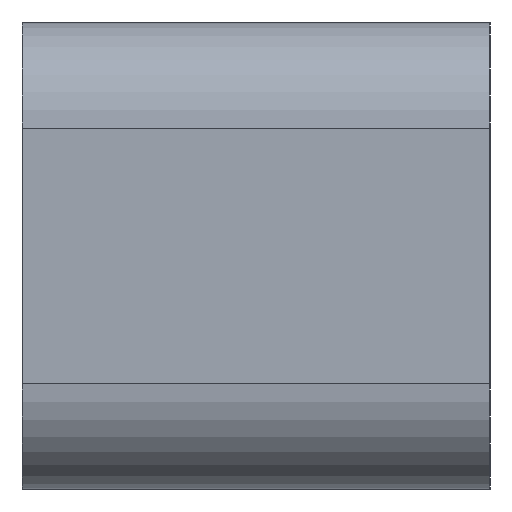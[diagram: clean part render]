
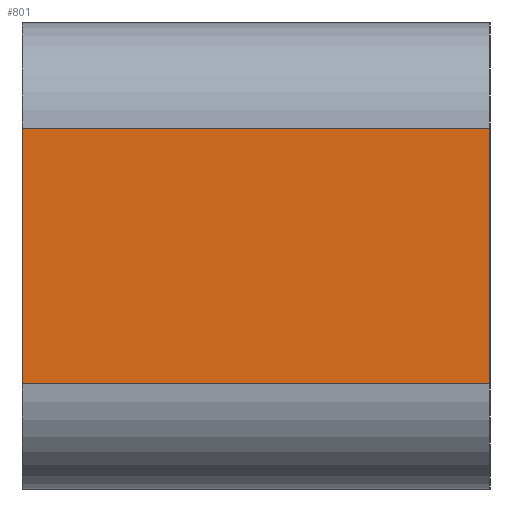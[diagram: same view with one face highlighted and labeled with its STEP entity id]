
A CAD part, left-side view. The second image highlights one B-rep face of the part: STEP entity #801.
In plain terms, the highlighted planar face has unit normal (-1, 0, 0).
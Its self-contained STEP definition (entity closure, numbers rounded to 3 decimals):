
#10 = CARTESIAN_POINT ( 'NONE',  ( -24.25, -7., 14. ) ) ;
#35 = LINE ( 'NONE', #239, #564 ) ;
#38 = CARTESIAN_POINT ( 'NONE',  ( -24.25, -7., 10.825 ) ) ;
#41 = CARTESIAN_POINT ( 'NONE',  ( -24.25, -7., 10.825 ) ) ;
#80 = CARTESIAN_POINT ( 'NONE',  ( -24.25, -7., 3.175 ) ) ;
#97 = EDGE_CURVE ( 'NONE', #417, #707, #539, .T. ) ;
#104 = EDGE_CURVE ( 'NONE', #321, #707, #888, .T. ) ;
#122 = CARTESIAN_POINT ( 'NONE',  ( -24.25, 7., 3.175 ) ) ;
#148 = EDGE_CURVE ( 'NONE', #662, #321, #35, .T. ) ;
#173 = FACE_OUTER_BOUND ( 'NONE', #340, .T. ) ;
#184 = VECTOR ( 'NONE', #497, 1000. ) ;
#193 = DIRECTION ( 'NONE',  ( 0., 0., -1. ) ) ;
#239 = CARTESIAN_POINT ( 'NONE',  ( -24.25, 7., 14. ) ) ;
#247 = VECTOR ( 'NONE', #803, 1000. ) ;
#321 = VERTEX_POINT ( 'NONE', #122 ) ;
#340 = EDGE_LOOP ( 'NONE', ( #481, #875, #495, #446 ) ) ;
#387 = VECTOR ( 'NONE', #193, 1000. ) ;
#417 = VERTEX_POINT ( 'NONE', #38 ) ;
#446 = ORIENTED_EDGE ( 'NONE', *, *, #807, .T. ) ;
#480 = CARTESIAN_POINT ( 'NONE',  ( -24.25, -7., 3.175 ) ) ;
#481 = ORIENTED_EDGE ( 'NONE', *, *, #148, .T. ) ;
#495 = ORIENTED_EDGE ( 'NONE', *, *, #97, .F. ) ;
#497 = DIRECTION ( 'NONE',  ( 0., -1., 0. ) ) ;
#530 = PLANE ( 'NONE',  #671 ) ;
#539 = LINE ( 'NONE', #10, #387 ) ;
#564 = VECTOR ( 'NONE', #734, 1000. ) ;
#600 = DIRECTION ( 'NONE',  ( 1., 0., 0. ) ) ;
#662 = VERTEX_POINT ( 'NONE', #726 ) ;
#667 = DIRECTION ( 'NONE',  ( 0., 0., -1. ) ) ;
#671 = AXIS2_PLACEMENT_3D ( 'NONE', #886, #600, #667 ) ;
#673 = LINE ( 'NONE', #41, #247 ) ;
#707 = VERTEX_POINT ( 'NONE', #80 ) ;
#726 = CARTESIAN_POINT ( 'NONE',  ( -24.25, 7., 10.825 ) ) ;
#734 = DIRECTION ( 'NONE',  ( 0., 0., -1. ) ) ;
#801 = ADVANCED_FACE ( 'NONE', ( #173 ), #530, .F. ) ;
#803 = DIRECTION ( 'NONE',  ( 0., 1., 0. ) ) ;
#807 = EDGE_CURVE ( 'NONE', #417, #662, #673, .T. ) ;
#875 = ORIENTED_EDGE ( 'NONE', *, *, #104, .T. ) ;
#886 = CARTESIAN_POINT ( 'NONE',  ( -24.25, -7., 14. ) ) ;
#888 = LINE ( 'NONE', #480, #184 ) ;
